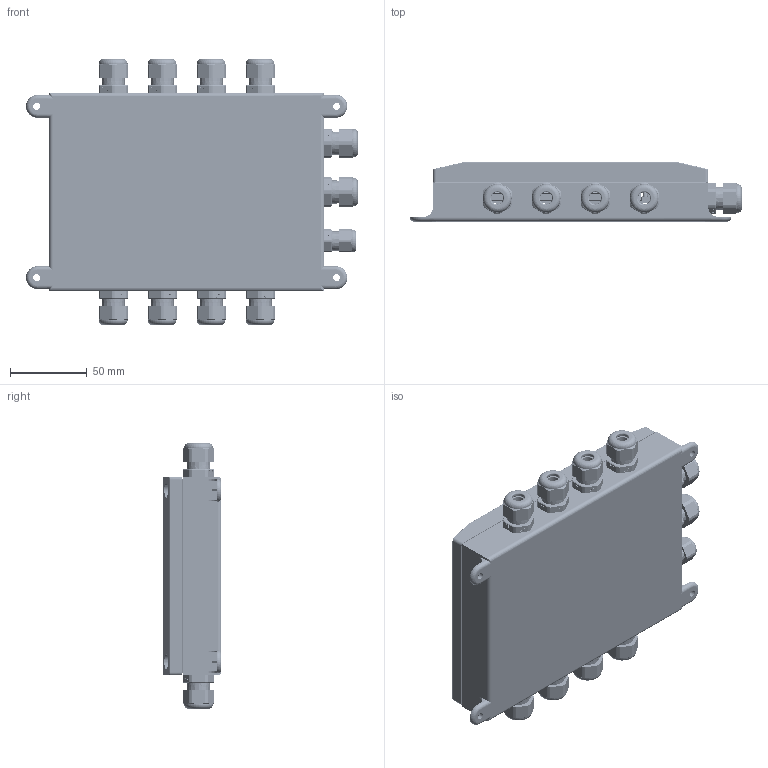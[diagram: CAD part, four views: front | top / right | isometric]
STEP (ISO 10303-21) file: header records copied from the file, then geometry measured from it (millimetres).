
FILE_DESCRIPTION((''),'1');
FILE_NAME('ETLB_8-channel_ABS.step','2023-11-06T13:17:00',(''),(''),'','','');
FILE_SCHEMA(('AUTOMOTIVE_DESIGN { 1 0 10303 214 1 1 1 1 }'));
Products named in the file (54): ETLB cover 01; ETLB body 01; ETLB seal 01; ETLB washer 01; ETLB screw 01; ETLB 8-channel_ABS; ETLB part 02; ETLB screw 02; ETLB part 03; ETLB screw 04; ETLB part 04; ETLB part 05; ETLB display 01; ETLB display 02; ETLB spacer 01; ETLB spacer 02; ETLB part 06; ETLB part 07; ETLB part 08; ETLB part 09; ETLB button 01; ETLB part 10; ETLB cover 02; ETLB nut 01; ETLB connector 01; 1; 12; 13; ETLB part 12; ETLB part 13; 2; 22; 23; ETLB circuit board 01; ETLB housing 01; ETLB body 03; ETLB part 15; ETLB cable gland 01; ETLB cable gland 02; ETLB seal 02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
Assembly tree (130 placements, depth 6):
  ETLB 8-channel_ABS
    ETLB cover 01
      ETLB body 01
      ETLB seal 01
      ETLB washer 01  x4
      ETLB screw 01  x4
    ETLB part 02
      ETLB screw 02  x4
      ETLB part 03
        ETLB screw 04  x4
        ETLB part 04
        ETLB part 05
        ETLB display 01
        ETLB display 02
        ETLB spacer 01  x2
        ETLB spacer 02  x4
        ETLB part 06  x4
        ETLB part 07
        ETLB part 08
        ETLB part 09  x2
        ETLB button 01  x4
      ETLB part 10
        ETLB cover 02
        ETLB nut 01  x4
        ETLB connector 01
        ETLB part 12
          1
            12  x10
            13  x10
          ETLB part 13
          2
            22  x4
            23
      ETLB circuit board 01
    ETLB housing 01
      ETLB body 03
      ETLB part 15  x4
    ETLB cable gland 01
      ETLB cable gland 02
      ETLB seal 02
      ETLB nut 02
    ETLB cable gland 04
      ETLB cable gland 05
      ETLB seal 03
      ETLB nut 03
    ETLB cable gland 04
      ETLB cable gland 05
      ETLB seal 03
      ETLB nut 03
    ETLB cable gland 04
      ETLB cable gland 05
      ETLB seal 03
      ETLB nut 03
    ETLB cable gland 04
      ETLB cable gland 05
      ETLB seal 03
      ETLB nut 03
    ETLB cable gland 04
      ETLB cable gland 05
      ETLB seal 03
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Bounding box: 217 x 38.5 x 174 mm (x, y, z)
Volume: 355337 mm3; surface area: 279406 mm2
Topology: 111 solids, 122 shells, 12224 faces, 31129 edges, 20158 vertices
Faces by surface type: plane 7106, cylinder 3780, cone 838, torus 448, sphere 48, bspline 4
Entity records: 163864 total; most frequent: CARTESIAN_POINT 29988, DIRECTION 25262, ORIENTED_EDGE 24838, EDGE_CURVE 12441, LINE 8496, VECTOR 8496, AXIS2_PLACEMENT_3D 8383, VERTEX_POINT 8065
